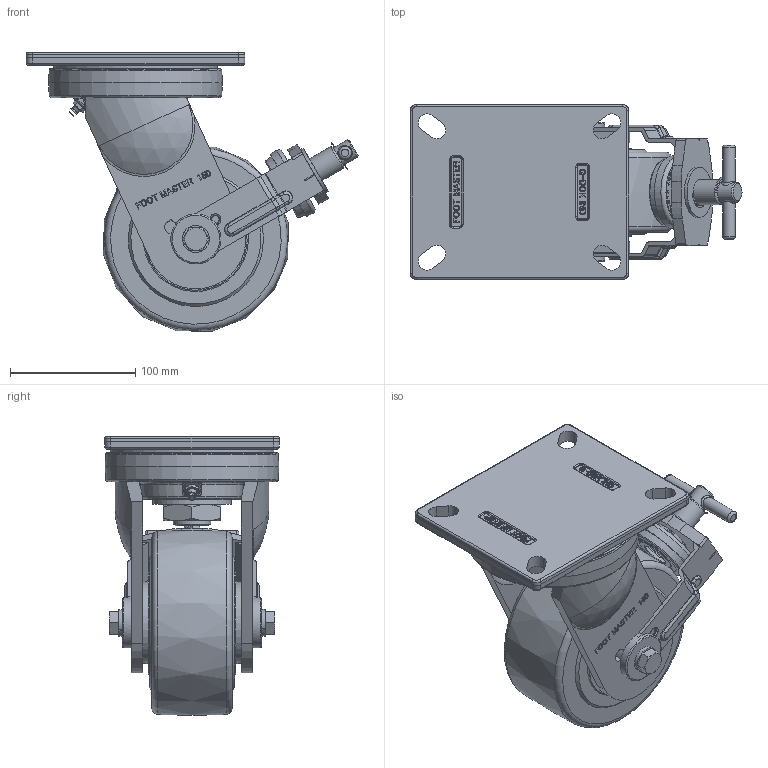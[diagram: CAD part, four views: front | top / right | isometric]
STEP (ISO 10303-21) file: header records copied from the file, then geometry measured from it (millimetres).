
FILE_DESCRIPTION(/* description */ (''),/* implementation_level */ '2;1');
FILE_NAME(/* name */ 'Y:\1.기술연구소\2.연구개발 진행중\133.고하중캐스터 브레이크 타입 변경건_2025.11.03\1.도면\4.홈페이지용 도면\01. 3D\GXT-150 SERIES\GXT-150-STEP\GXT-150-BSF-HUD.stp',/* time_stamp */ '2026-07-22T11:31:25+09:00',/* author */ ('장용하'),/* organization */ (''),/* preprocessor_version */ 'ST-DEVELOPER v18.1',/* originating_system */ 'Autodesk Inventor 2021',/* authorisation */ '');
FILE_SCHEMA (('CONFIG_CONTROL_DESIGN'));
Products named in the file (1): GXT-150-BSF-HUD
Bounding box: 265.39 x 140 x 222.96 mm (x, y, z)
Volume: 2272617.3 mm3; surface area: 228405.2 mm2
Topology: 1 solids, 1 shells, 1740 faces, 4659 edges, 3045 vertices
Faces by surface type: plane 821, bspline 621, cylinder 197, torus 55, cone 42, sphere 4
Full cylindrical faces by diameter (mm): 10 x2, 12 x2, 13 x2, 16 x1, 20 x1, 30 x1, 31.606 x1, 37.448 x2, 40 x3, 54 x2, 58 x1, 62.5 x1, 65 x2, 131.086 x1
Entity records: 59379 total; most frequent: CARTESIAN_POINT 19668, ORIENTED_EDGE 9320, DIRECTION 6322, EDGE_CURVE 4660, VERTEX_POINT 3047, LINE 2652, VECTOR 2652, EDGE_LOOP 1891
